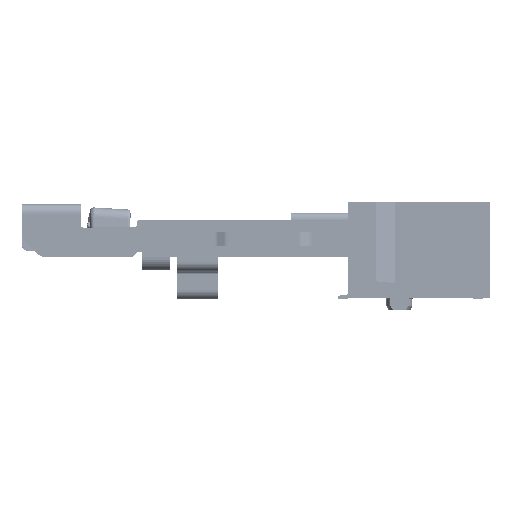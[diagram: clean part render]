
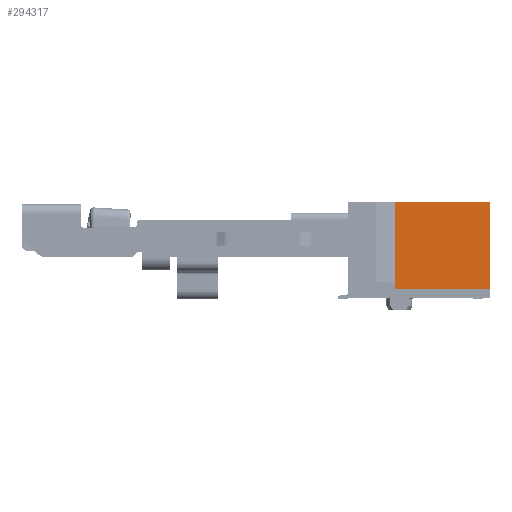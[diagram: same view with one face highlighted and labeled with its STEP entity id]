
A CAD part, left-side view. The second image highlights one B-rep face of the part: STEP entity #294317.
In plain terms, the highlighted planar face has unit normal (-1, 0, 0).
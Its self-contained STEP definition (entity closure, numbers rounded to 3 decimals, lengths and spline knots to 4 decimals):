
#751=DIRECTION('',(0.,0.,-1.));
#752=VECTOR('',#751,4.3187);
#753=CARTESIAN_POINT('',(0.5,5.2,-2.8));
#754=LINE('',#753,#752);
#759=DIRECTION('',(0.,1.,0.));
#760=VECTOR('',#759,5.1);
#761=CARTESIAN_POINT('',(0.5,0.1,-7.45));
#762=LINE('',#761,#760);
#763=DIRECTION('',(0.,0.,1.));
#764=VECTOR('',#763,0.3313);
#765=CARTESIAN_POINT('',(0.5,5.2,-7.45));
#766=LINE('',#765,#764);
#816=DIRECTION('',(0.,1.,0.));
#817=VECTOR('',#816,5.1);
#818=CARTESIAN_POINT('',(0.5,0.1,-2.8));
#819=LINE('',#818,#817);
#18621=DIRECTION('',(0.,0.,1.));
#18622=VECTOR('',#18621,4.65);
#18623=CARTESIAN_POINT('',(0.5,0.1,-7.45));
#18624=LINE('',#18623,#18622);
#226973=CARTESIAN_POINT('',(0.5,5.2,-2.8));
#226975=VERTEX_POINT('',#226973);
#227633=CARTESIAN_POINT('',(0.5,5.2,-7.45));
#227634=VERTEX_POINT('',#227633);
#229699=CARTESIAN_POINT('',(0.5,0.1,-2.8));
#229700=VERTEX_POINT('',#229699);
#229709=CARTESIAN_POINT('',(0.5,0.1,-7.45));
#229710=VERTEX_POINT('',#229709);
#229787=CARTESIAN_POINT('',(0.5,5.2,-7.1187));
#229789=VERTEX_POINT('',#229787);
#294302=CARTESIAN_POINT('',(0.5,0.,-2.8));
#294303=DIRECTION('',(1.,0.,0.));
#294304=DIRECTION('',(0.,1.,0.));
#294305=AXIS2_PLACEMENT_3D('',#294302,#294303,#294304);
#294306=PLANE('',#294305);
#294307=ORIENTED_EDGE('',*,*,#294292,.F.);
#294309=ORIENTED_EDGE('',*,*,#294308,.F.);
#294311=ORIENTED_EDGE('',*,*,#294310,.F.);
#294313=ORIENTED_EDGE('',*,*,#294312,.T.);
#294314=ORIENTED_EDGE('',*,*,#294259,.T.);
#294315=EDGE_LOOP('',(#294307,#294309,#294311,#294313,#294314));
#294316=FACE_OUTER_BOUND('',#294315,.F.);
#294259=EDGE_CURVE('',#227634,#229789,#766,.T.);
#294292=EDGE_CURVE('',#226975,#229789,#754,.T.);
#294308=EDGE_CURVE('',#229700,#226975,#819,.T.);
#294310=EDGE_CURVE('',#229710,#229700,#18624,.T.);
#294312=EDGE_CURVE('',#229710,#227634,#762,.T.);
#294317=ADVANCED_FACE('',(#294316),#294306,.F.);
